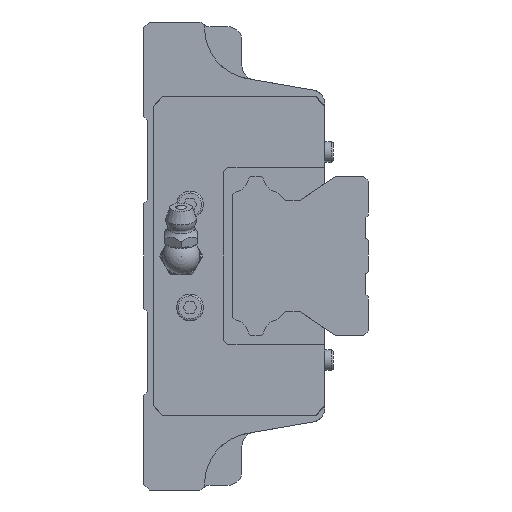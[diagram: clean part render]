
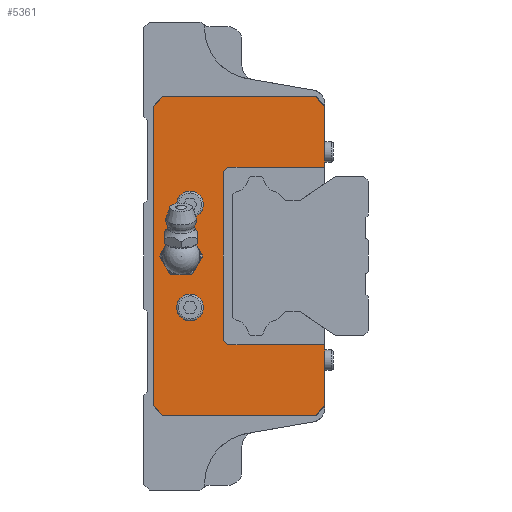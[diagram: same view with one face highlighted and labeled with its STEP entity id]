
A CAD part, left-side view. The second image highlights one B-rep face of the part: STEP entity #5361.
In plain terms, the highlighted planar face has unit normal (-1, 0, 0).
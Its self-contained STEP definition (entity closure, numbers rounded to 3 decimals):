
#243=CIRCLE('',#5819,3.);
#244=CIRCLE('',#5820,2.85);
#245=CIRCLE('',#5821,2.85);
#407=LINE('',#7867,#955);
#432=LINE('',#7923,#980);
#444=LINE('',#7949,#992);
#480=LINE('',#8025,#1028);
#504=LINE('',#8071,#1052);
#528=LINE('',#8127,#1076);
#534=LINE('',#8144,#1082);
#671=LINE('',#8607,#1219);
#673=LINE('',#8610,#1221);
#680=LINE('',#8635,#1228);
#681=LINE('',#8638,#1229);
#682=LINE('',#8639,#1230);
#683=LINE('',#8641,#1231);
#684=LINE('',#8643,#1232);
#955=VECTOR('',#6359,1000.);
#980=VECTOR('',#6392,1000.);
#992=VECTOR('',#6412,1000.);
#1028=VECTOR('',#6468,1000.);
#1052=VECTOR('',#6514,1000.);
#1076=VECTOR('',#6554,1000.);
#1082=VECTOR('',#6566,1000.);
#1219=VECTOR('',#6935,1000.);
#1221=VECTOR('',#6939,1000.);
#1228=VECTOR('',#6962,1000.);
#1229=VECTOR('',#6963,1000.);
#1230=VECTOR('',#6964,1000.);
#1231=VECTOR('',#6965,1000.);
#1232=VECTOR('',#6966,1000.);
#2322=ORIENTED_EDGE('',*,*,#3421,.T.);
#2323=ORIENTED_EDGE('',*,*,#3422,.F.);
#2324=ORIENTED_EDGE('',*,*,#3423,.F.);
#2325=ORIENTED_EDGE('',*,*,#3424,.T.);
#2326=ORIENTED_EDGE('',*,*,#3425,.T.);
#2327=ORIENTED_EDGE('',*,*,#3204,.F.);
#2328=ORIENTED_EDGE('',*,*,#3409,.T.);
#2329=ORIENTED_EDGE('',*,*,#3112,.F.);
#2330=ORIENTED_EDGE('',*,*,#3099,.F.);
#2331=ORIENTED_EDGE('',*,*,#3176,.F.);
#2332=ORIENTED_EDGE('',*,*,#3072,.F.);
#2333=ORIENTED_EDGE('',*,*,#3150,.F.);
#2334=ORIENTED_EDGE('',*,*,#3411,.T.);
#2335=ORIENTED_EDGE('',*,*,#3212,.F.);
#2336=ORIENTED_EDGE('',*,*,#3426,.T.);
#2337=ORIENTED_EDGE('',*,*,#3427,.T.);
#2338=ORIENTED_EDGE('',*,*,#3428,.T.);
#3072=EDGE_CURVE('',#3782,#3783,#407,.T.);
#3099=EDGE_CURVE('',#3809,#3810,#432,.T.);
#3112=EDGE_CURVE('',#3810,#3820,#444,.T.);
#3150=EDGE_CURVE('',#3849,#3782,#480,.T.);
#3176=EDGE_CURVE('',#3783,#3809,#504,.T.);
#3204=EDGE_CURVE('',#3884,#3885,#528,.T.);
#3212=EDGE_CURVE('',#3892,#3893,#534,.T.);
#3409=EDGE_CURVE('',#3884,#3820,#671,.T.);
#3411=EDGE_CURVE('',#3849,#3893,#673,.T.);
#3421=EDGE_CURVE('',#4030,#4030,#243,.T.);
#3422=EDGE_CURVE('',#4031,#4031,#244,.F.);
#3423=EDGE_CURVE('',#4032,#4032,#245,.F.);
#3424=EDGE_CURVE('',#4033,#4034,#680,.T.);
#3425=EDGE_CURVE('',#4034,#3885,#681,.T.);
#3426=EDGE_CURVE('',#3892,#4035,#682,.T.);
#3427=EDGE_CURVE('',#4035,#4036,#683,.T.);
#3428=EDGE_CURVE('',#4036,#4033,#684,.T.);
#3782=VERTEX_POINT('',#7866);
#3783=VERTEX_POINT('',#7868);
#3809=VERTEX_POINT('',#7922);
#3810=VERTEX_POINT('',#7924);
#3820=VERTEX_POINT('',#7950);
#3849=VERTEX_POINT('',#8024);
#3884=VERTEX_POINT('',#8126);
#3885=VERTEX_POINT('',#8128);
#3892=VERTEX_POINT('',#8143);
#3893=VERTEX_POINT('',#8145);
#4030=VERTEX_POINT('',#8630);
#4031=VERTEX_POINT('',#8632);
#4032=VERTEX_POINT('',#8634);
#4033=VERTEX_POINT('',#8636);
#4034=VERTEX_POINT('',#8637);
#4035=VERTEX_POINT('',#8640);
#4036=VERTEX_POINT('',#8642);
#4416=EDGE_LOOP('',(#2322));
#4417=EDGE_LOOP('',(#2323));
#4418=EDGE_LOOP('',(#2324));
#4419=EDGE_LOOP('',(#2325,#2326,#2327,#2328,#2329,#2330,#2331,#2332,#2333,
#2334,#2335,#2336,#2337,#2338));
#4795=FACE_BOUND('',#4416,.T.);
#4796=FACE_BOUND('',#4417,.T.);
#4797=FACE_BOUND('',#4418,.T.);
#4798=FACE_BOUND('',#4419,.T.);
#5105=PLANE('',#5818);
#5361=ADVANCED_FACE('',(#4795,#4796,#4797,#4798),#5105,.F.);
#5818=AXIS2_PLACEMENT_3D('',#8628,#6954,#6955);
#5819=AXIS2_PLACEMENT_3D('',#8629,#6956,#6957);
#5820=AXIS2_PLACEMENT_3D('',#8631,#6958,#6959);
#5821=AXIS2_PLACEMENT_3D('',#8633,#6960,#6961);
#6359=DIRECTION('',(0.,0.707,0.707));
#6392=DIRECTION('',(0.,-0.707,0.707));
#6412=DIRECTION('',(0.,-1.,0.));
#6468=DIRECTION('',(0.,1.,0.));
#6514=DIRECTION('',(0.,0.,1.));
#6554=DIRECTION('',(0.,0.,-1.));
#6566=DIRECTION('',(0.,0.,-1.));
#6935=DIRECTION('',(0.,0.707,0.707));
#6939=DIRECTION('',(0.,-0.707,0.707));
#6954=DIRECTION('',(1.,0.,0.));
#6955=DIRECTION('',(0.,0.,-1.));
#6956=DIRECTION('',(1.,0.,0.));
#6957=DIRECTION('',(0.,0.,-1.));
#6958=DIRECTION('',(1.,0.,0.));
#6959=DIRECTION('',(0.,0.,-1.));
#6960=DIRECTION('',(1.,0.,0.));
#6961=DIRECTION('',(0.,0.,-1.));
#6962=DIRECTION('',(0.,-0.707,0.707));
#6963=DIRECTION('',(0.,-1.,0.));
#6964=DIRECTION('',(0.,1.,0.));
#6965=DIRECTION('',(0.,0.707,0.707));
#6966=DIRECTION('',(0.,0.,1.));
#7866=CARTESIAN_POINT('',(-54.,36.5,-34.));
#7867=CARTESIAN_POINT('',(-54.,36.5,-34.));
#7868=CARTESIAN_POINT('',(-54.,38.5,-32.));
#7922=CARTESIAN_POINT('',(-54.,38.5,32.));
#7923=CARTESIAN_POINT('',(-54.,38.5,32.));
#7924=CARTESIAN_POINT('',(-54.,36.5,34.));
#7949=CARTESIAN_POINT('',(-54.,40.5,34.));
#7950=CARTESIAN_POINT('',(-54.,3.783,34.));
#8024=CARTESIAN_POINT('',(-54.,3.783,-34.));
#8025=CARTESIAN_POINT('',(-54.,0.,-34.));
#8071=CARTESIAN_POINT('',(-54.,38.5,-32.));
#8126=CARTESIAN_POINT('',(-54.,1.783,32.));
#8127=CARTESIAN_POINT('',(-54.,1.783,32.478));
#8128=CARTESIAN_POINT('',(-54.,1.783,19.));
#8143=CARTESIAN_POINT('',(-54.,1.783,-19.));
#8144=CARTESIAN_POINT('',(-54.,1.783,32.478));
#8145=CARTESIAN_POINT('',(-54.,1.783,-32.));
#8607=CARTESIAN_POINT('',(-54.,3.783,34.));
#8610=CARTESIAN_POINT('',(-54.,1.783,-32.));
#8628=CARTESIAN_POINT('',(-54.,0.,0.));
#8629=CARTESIAN_POINT('',(-54.,32.5,0.));
#8630=CARTESIAN_POINT('',(-54.,32.5,-3.));
#8631=CARTESIAN_POINT('',(-54.,30.6,11.));
#8632=CARTESIAN_POINT('',(-54.,30.6,8.15));
#8633=CARTESIAN_POINT('',(-54.,30.6,-11.));
#8634=CARTESIAN_POINT('',(-54.,30.6,-13.85));
#8635=CARTESIAN_POINT('',(-54.,23.5,18.));
#8636=CARTESIAN_POINT('',(-54.,23.5,18.));
#8637=CARTESIAN_POINT('',(-54.,22.5,19.));
#8638=CARTESIAN_POINT('',(-54.,22.5,19.));
#8639=CARTESIAN_POINT('',(-54.,1.783,-19.));
#8640=CARTESIAN_POINT('',(-54.,22.5,-19.));
#8641=CARTESIAN_POINT('',(-54.,22.5,-19.));
#8642=CARTESIAN_POINT('',(-54.,23.5,-18.));
#8643=CARTESIAN_POINT('',(-54.,23.5,-18.));
